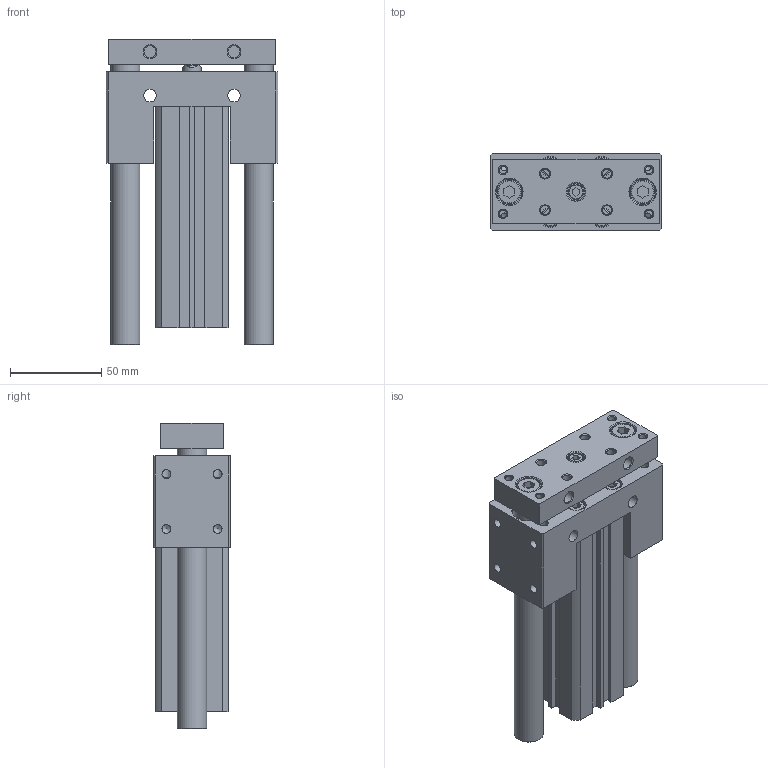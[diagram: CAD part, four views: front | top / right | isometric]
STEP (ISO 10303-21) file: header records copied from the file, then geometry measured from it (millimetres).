
FILE_DESCRIPTION((''),'2;1');
FILE_NAME('I:\3D電子目錄\氣缸\JCB\JCB\JCB25\JCB25x100.stp','2007-08-21T19:21:48',('Administrator'),(''),'Autodesk Inventor 11','Autodesk Inventor 11','');
FILE_SCHEMA(('AUTOMOTIVE_DESIGN { 1 0 10303 214 1 1 1 1 }'));
Length unit declared in the file: millimetre
Products named in the file (1): JCB25
Bounding box: 94 x 42 x 167.5 mm (x, y, z)
Volume: 369658.1 mm3; surface area: 101289.3 mm2
Topology: 5 solids, 5 shells, 323 faces, 740 edges, 483 vertices
Faces by surface type: plane 172, bspline 61, cylinder 47, cone 35, torus 8
Full cylindrical faces by diameter (mm): 1.5 x2, 4.917 x4, 5.1 x4, 6.647 x2, 8 x8, 8.5 x1, 10 x5, 11 x1, 13 x2, 16 x2, 17 x2, 18 x2, 28 x4, 29.4 x2
Entity records: 8980 total; most frequent: CARTESIAN_POINT 2309, DIRECTION 1332, ORIENTED_EDGE 1160, EDGE_CURVE 580, EDGE_LOOP 544, AXIS2_PLACEMENT_3D 493, VERTEX_POINT 454, VECTOR 346
